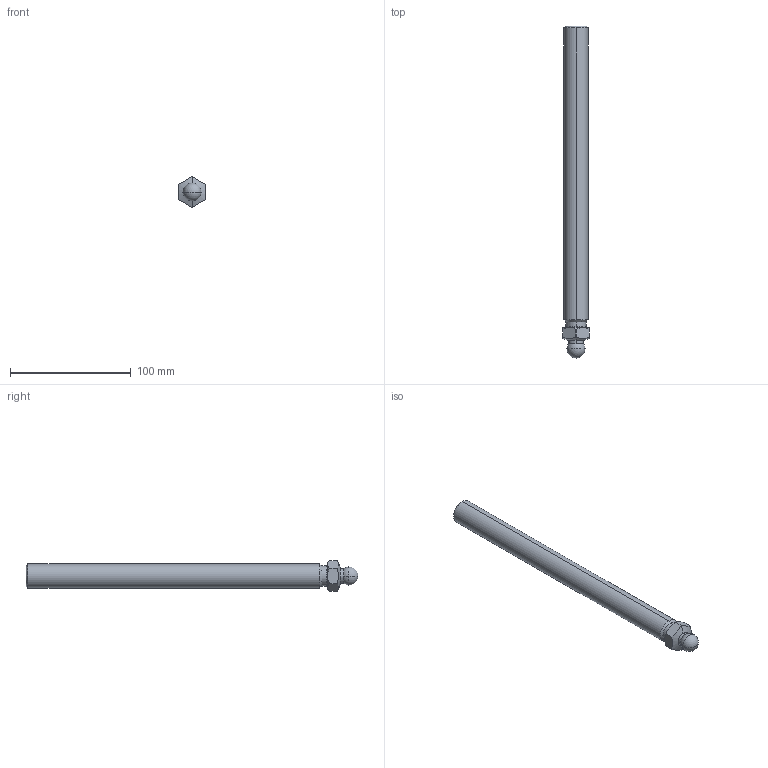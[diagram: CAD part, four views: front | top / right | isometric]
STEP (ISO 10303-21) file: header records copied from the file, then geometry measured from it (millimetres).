
FILE_DESCRIPTION(('STEP AP214'),'1');
FILE_NAME('fath_098dm20250m.stp','2017-09-25T11:47:51',('TraceParts'),('TraceParts S.A.'),'Spatial InterOp 3D',' ',' ');
FILE_SCHEMA(('automotive_design'));
Length unit declared in the file: millimetre
Products named in the file (1): fath_098dm20250m
Bounding box: 22 x 275 x 25.4 mm (x, y, z)
Volume: 83827.6 mm3; surface area: 17726.9 mm2
Topology: 1 solids, 1 shells, 42 faces, 108 edges, 65 vertices
Faces by surface type: cone 14, cylinder 14, plane 8, sphere 4, torus 2
Entity records: 1711 total; most frequent: CARTESIAN_POINT 342, DIRECTION 224, ORIENTED_EDGE 208, EDGE_CURVE 104, AXIS2_PLACEMENT_3D 95, VERTEX_POINT 65, CIRCLE 52, STYLED_ITEM 43
